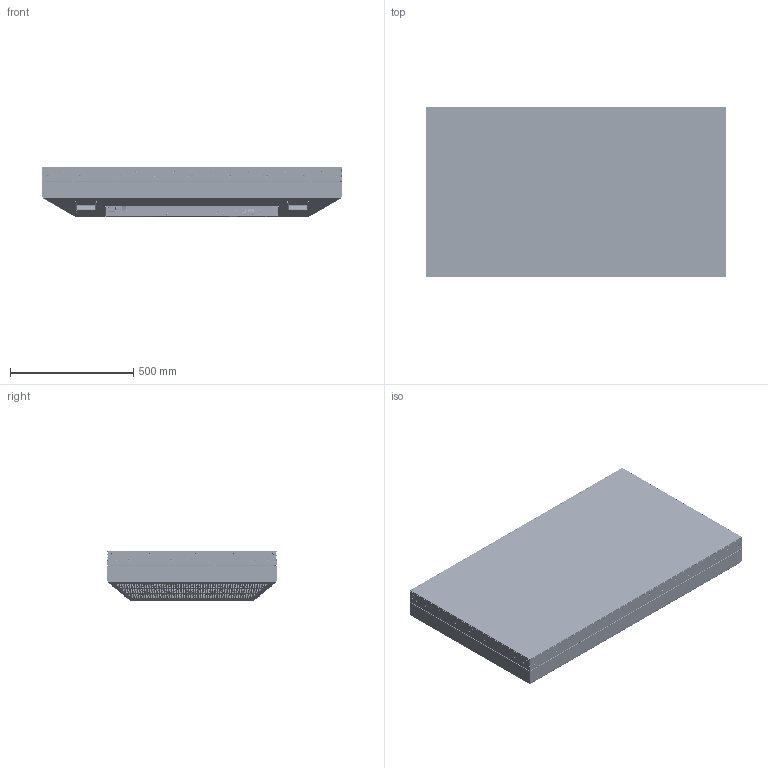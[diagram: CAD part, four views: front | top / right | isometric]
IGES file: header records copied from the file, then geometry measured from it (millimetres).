
Start section:  PTC IGES file: MT553_CUSTOMER_CHELL_MODEL.igs
Global section: file name: MT553_CUSTOMER_CHELL_MODEL.igs; native system: Pro/ENGINEER by Parametric Technology Corporation; preprocessor: 2010280; author: Valdemar; organization: Unknown; date: 20121107.123706; units: millimetre
Bounding box: 1215.3 x 686.1 x 202.22 mm (x, y, z)
Surface area: 6299639.6 mm2 (no closed solid volume)
Topology: 0 solids, 0 shells, 8596 faces, 63102 edges, 63045 vertices
Faces by surface type: revolution 4628, bspline 3959, extrusion 9
